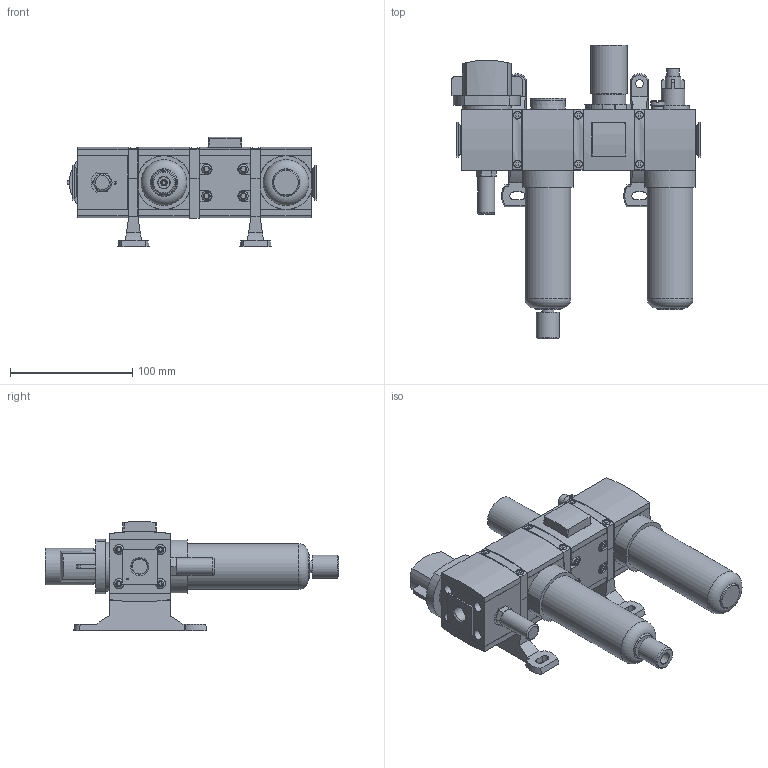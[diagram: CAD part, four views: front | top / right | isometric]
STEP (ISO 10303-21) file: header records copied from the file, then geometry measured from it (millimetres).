
FILE_DESCRIPTION( ( 'STEP AP214' ), '1' );
FILE_NAME( 'p:/temp/worker_229/temp/exporttempdir_1004_493_McS1D/format_0/07032020-200214_gen_29941.stp', '2020-02-07T19:03:16', ( '' ), ( '' ), ' ', 'PARTsolutions', ' ' );
FILE_SCHEMA( ( 'AUTOMOTIVE_DESIGN { 1 0 10303 214 1 1 1 1 }' ) );
Length unit declared in the file: millimetre
Products named in the file (18): 07032020-200214_gen_29941; _438683-008-FL; _1437740-001-R-0; _M2MN_651; _437742-001-100_651; _G651ASLA0B00A00_LS; _514892-010-F; _439851-002_; _434133-001; _440512-002; _G651ASLA0A00A00_LS; _434510-010-F-L; _1437740-001-R-1; _438047-009_651_gauge; _433894-001_BONNET; _504924-001-STANDARD_651; _504323-004; _433456-008-F-
Assembly tree (25 placements, depth 2):
  07032020-200214_gen_29941
    _438683-008-FL
    _1437740-001-R-0  x7
    _M2MN_651
    _437742-001-100_651
    _G651ASLA0B00A00_LS  x2
    _514892-010-F
    _439851-002_
    _434133-001  x2
    _440512-002
    _G651ASLA0A00A00_LS
    _434510-010-F-L
    _1437740-001-R-1
    _438047-009_651_gauge
    _433894-001_BONNET
    _504924-001-STANDARD_651
    _504323-004
    _433456-008-F-
Bounding box: 204 x 240.77 x 89.41 mm (x, y, z)
Volume: 908722.5 mm3; surface area: 214927.7 mm2
Topology: 25 solids, 25 shells, 1042 faces, 2547 edges, 1649 vertices
Faces by surface type: plane 685, cylinder 254, cone 75, torus 21, bspline 6, sphere 1
Full cylindrical faces by diameter (mm): 2.5 x6, 2.8 x2, 3 x2, 3.5 x6, 4.2 x4, 4.3 x4, 5 x1, 5.6 x4, 6 x7, 6.5 x2, 8 x4, 8.2 x4, 9.3 x1, 9.728 x2, 10 x1, 11.7 x1, 13 x1, 13.081 x1, 14.224 x1, 15.1 x1, 19 x1, 19.4 x1, 20 x4, 20.2 x2, 22.25 x2, 22.4 x1, 25.5 x4, 27 x1, 27.53 x1, 30 x1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
Entity records: 34319 total; most frequent: CARTESIAN_POINT 5491, DIRECTION 4439, ORIENTED_EDGE 4172, EDGE_CURVE 2086, AXIS2_PLACEMENT_3D 1537, VERTEX_POINT 1426, LINE 1365, VECTOR 1365
